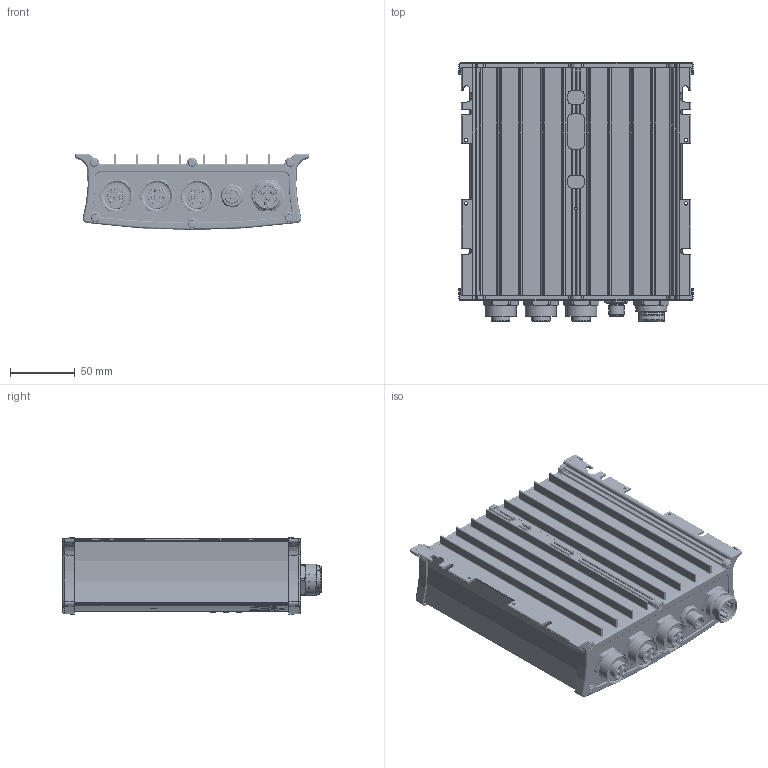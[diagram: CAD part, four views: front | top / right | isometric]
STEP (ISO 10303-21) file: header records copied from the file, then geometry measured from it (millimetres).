
FILE_DESCRIPTION (( 'STEP AP214' ), '1' );
FILE_NAME ('447.24.01.STEP', '2024-07-31T07:45:49', ( '' ), ( '' ), 'SwSTEP 2.0', 'SolidWorks 2024', '' );
FILE_SCHEMA (( 'AUTOMOTIVE_DESIGN' ));
Length unit declared in the file: millimetre
Products named in the file (1): 447.24.01
Bounding box: 180.63 x 199.55 x 58.73 mm (x, y, z)
Volume: 282654.3 mm3; surface area: 359495.6 mm2
Topology: 49 solids, 52 shells, 2957 faces, 8257 edges, 5753 vertices
Faces by surface type: cylinder 1029, plane 1010, torus 491, cone 283, bspline 142, sphere 2
Full cylindrical faces by diameter (mm): 0.56 x6, 1 x5, 1.3 x15, 1.6 x15, 2 x18, 2.05 x12, 2.2 x15, 2.4 x15, 2.6 x15, 2.7 x4, 3 x27, 3.4 x12, 3.6 x12, 5 x2, 6 x24, 8.3 x1, 10.5 x1, 10.65 x1, 12 x1, 12.15 x1, 13.4 x1, 13.8 x1, 14.3 x3, 17.8 x4, 18.2 x6, 18.5 x1, 19.06 x4, 22.5 x6, 24 x3
Entity records: 175497 total; most frequent: CARTESIAN_POINT 70942, ORIENTED_EDGE 15048, DIRECTION 14041, EDGE_CURVE 7524, AXIS2_PLACEMENT_3D 5694, VERTEX_POINT 5517, EDGE_LOOP 3921, FACE_OUTER_BOUND 3366
